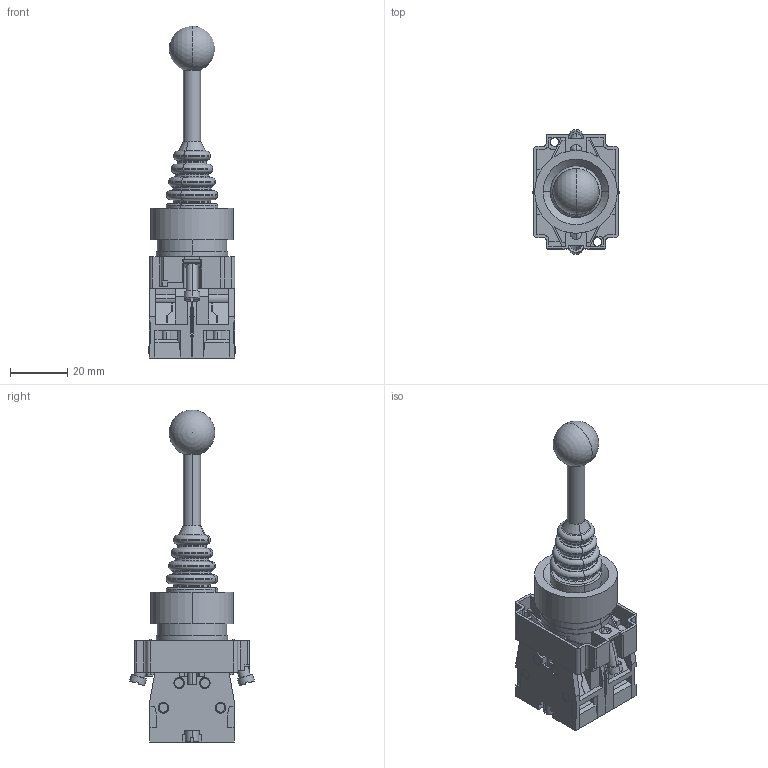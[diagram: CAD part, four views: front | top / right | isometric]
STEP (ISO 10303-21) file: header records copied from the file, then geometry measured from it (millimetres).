
FILE_DESCRIPTION (( 'STEP AP214' ), '1' );
FILE_NAME ('3D 沓麧錪 MTB2-PA22.STEP', '2017-04-25T12:50:51', ( 'adm' ), ( 'MICROSOFT' ), 'SwSTEP 2.0', 'SolidWorks 2011', '' );
FILE_SCHEMA (( 'AUTOMOTIVE_DESIGN' ));
Length unit declared in the file: millimetre
Products named in the file (6): Ðó÷êà_óïðàâëåíèÿ; 婰錪襝; 扻錪犩-臝鍎; MTB2-BE áëîê-êîíòàêò; Îñíîâàíèå ìåòàëë; 3D 沓麧錪 MTB2-PA22
Assembly tree (6 placements, depth 2):
  3D 沓麧錪 MTB2-PA22
    Îñíîâàíèå ìåòàëë
    MTB2-BE áëîê-êîíòàêò  x2
    扻錪犩-臝鍎
    婰錪襝
    Ðó÷êà_óïðàâëåíèÿ
Bounding box: 30.2 x 43.81 x 116.4 mm (x, y, z)
Volume: 33818.4 mm3; surface area: 27676.3 mm2
Topology: 8 solids, 8 shells, 1154 faces, 3014 edges, 1950 vertices
Faces by surface type: plane 756, cylinder 294, torus 70, cone 32, sphere 2
Entity records: 25208 total; most frequent: CARTESIAN_POINT 4546, DIRECTION 4154, ORIENTED_EDGE 4106, EDGE_CURVE 2053, VECTOR 1386, LINE 1386, AXIS2_PLACEMENT_3D 1384, VERTEX_POINT 1327
